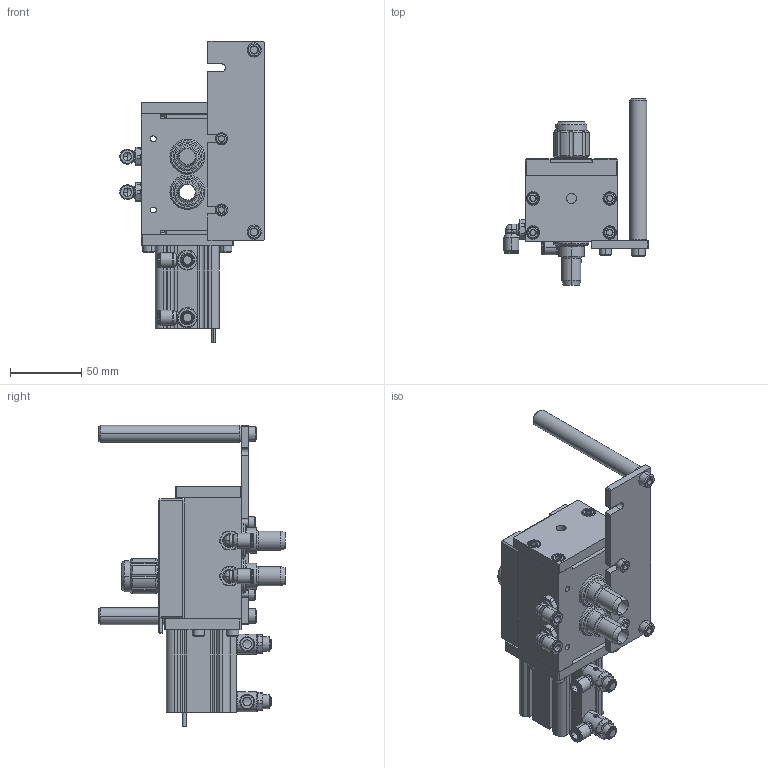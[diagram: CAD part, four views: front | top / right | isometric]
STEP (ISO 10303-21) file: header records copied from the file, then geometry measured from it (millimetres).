
FILE_DESCRIPTION (( 'STEP AP214' ), '1' );
FILE_NAME ('DROP.STEP', '2026-02-05T14:49:34', ( '' ), ( '' ), 'SwSTEP 2.0', 'SolidWorks 2022', '' );
FILE_SCHEMA (( 'AUTOMOTIVE_DESIGN' ));
Length unit declared in the file: millimetre
Products named in the file (1): DROP
Bounding box: 101.45 x 131 x 211.7 mm (x, y, z)
Surface area: 105340.8 mm2 (no closed solid volume)
Topology: 0 solids, 53 shells, 840 faces, 2308 edges, 1518 vertices
Faces by surface type: plane 348, cylinder 236, cone 210, bspline 38, torus 8
Entity records: 38586 total; most frequent: CARTESIAN_POINT 8230, DIRECTION 4583, ORIENTED_EDGE 3928, EDGE_CURVE 2304, AXIS2_PLACEMENT_3D 1759, VERTEX_POINT 1518, VECTOR 1065, LINE 1065
